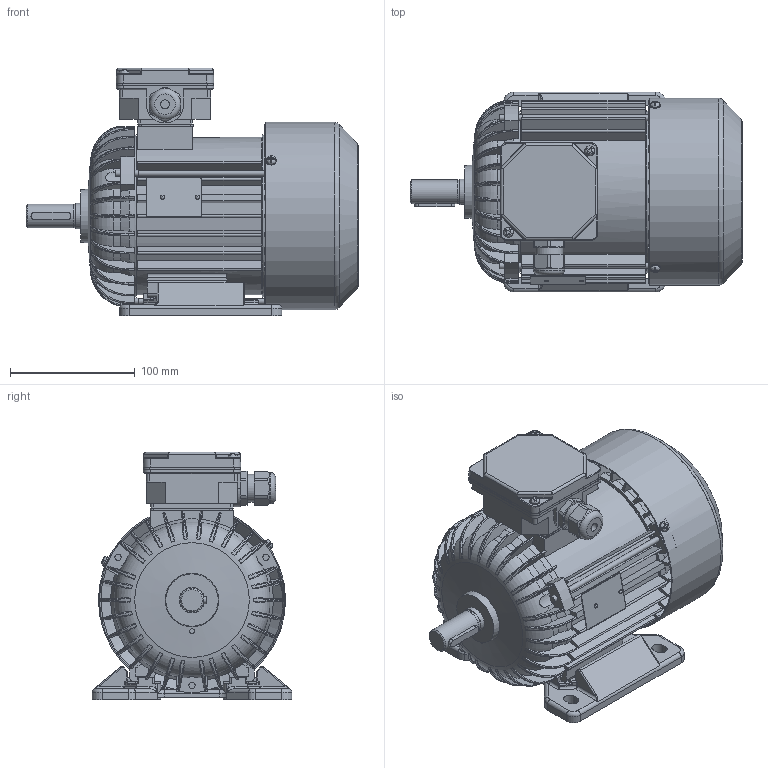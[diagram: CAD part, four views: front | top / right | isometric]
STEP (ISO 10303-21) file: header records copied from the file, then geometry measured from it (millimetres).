
FILE_DESCRIPTION( ( 'Unknown' ), '1' );
FILE_NAME( 'G:/Poczta Tk-1/STP/w.m.80/Sh80/Sh80-.A.stp', 'Unknown', ( 'K. Szlosek' ), ( 'BESEL S.A.' ), 'PSStep 17.0.49', 'Unknown', ' ' );
FILE_SCHEMA( ( 'AUTOMOTIVE_DESIGN { 1 0 10303 214 1 1 1 1 }' ) );
Length unit declared in the file: millimetre
Products named in the file (30): skrznka zaciskowa trójfazowa ; K4-2820 Uszczelka nr 2 Sh71,80; Dławnica M20x1,5; K2-0859 Podstawa skrzynki 6-cio zaciskowej; K2-0860 Pokrywka skrzynki zaciskowej; Assem1; K1-1257 Kadłub S(E,M)h80-A i B; K2-2027 Tarcza łożyskowa P S(E,M)h80-.A,C; K4-2320 Uszczelka nr 1 Sh71,80; K1-0437 Łapa Sh80-.. ; Nitokołek A 2x6; Wkręt samogwintujący M4x8; K2-2007 Tarcza łożyskowa N S(E,M)h80-; K3-7038 wał standard Sh80-A; Wpust A6x6x32; K3-4025 Przewietrznik Sg,h80; K4-4489 Osłona przewietrznika Sh80,90-A,C; Tabliczka znamionowa 32x44; Łożysko 6204; Śruba ściągająca E_M5x130; Wkręt samogwintujący M4x16
Assembly tree (45 placements, depth 3):
  Assem1
    K1-1257 Kadłub S(E,M)h80-A i B
    K2-2027 Tarcza łożyskowa P S(E,M)h80-.A,C
    K4-2320 Uszczelka nr 1 Sh71,80
    K1-0437 Łapa Sh80-.. 
    Nitokołek A 2x6  x2
    Wkręt samogwintujący M4x8  x3
    K2-2007 Tarcza łożyskowa N S(E,M)h80-
    K3-7038 wał standard Sh80-A
    Wpust A6x6x32
    K3-4025 Przewietrznik Sg,h80
    K4-4489 Osłona przewietrznika Sh80,90-A,C
    Tabliczka znamionowa 32x44
    Łożysko 6204  x2
    Łożysko 6204  x2
    Łożysko 6204  x2
    Łożysko 6204  x2
    Łożysko 6204  x2
    Łożysko 6204  x2
    Łożysko 6204  x2
    Łożysko 6204  x2
    Łożysko 6204  x2
    Łożysko 6204  x2
    Śruba ściągająca E_M5x130  x3
    Wkręt samogwintujący M4x16  x2
    skrznka zaciskowa trójfazowa 
      K4-2820 Uszczelka nr 2 Sh71,80
      Dławnica M20x1,5
      K2-0859 Podstawa skrzynki 6-cio zaciskowej
      K2-0860 Pokrywka skrzynki zaciskowej
Bounding box: 265.8 x 160 x 198.5 mm (x, y, z)
Volume: 894860.8 mm3; surface area: 536943 mm2
Topology: 44 solids, 60 shells, 2969 faces, 8159 edges, 5238 vertices
Faces by surface type: plane 1385, cylinder 960, torus 219, bspline 209, cone 160, sphere 36
Full cylindrical faces by diameter (mm): 2 x2, 2.4 x2, 3 x1, 3.7 x11, 4 x6, 4.2 x3, 4.5 x1, 4.6 x3, 4.8 x4, 5 x7, 5.5 x3, 6.5 x4, 7 x1, 8 x9, 18.376 x1, 18.38 x1, 18.6 x1, 19 x1, 19.3 x1, 19.5 x2, 19.9 x1, 20 x5, 20.3 x2, 20.4 x4, 22.3 x1, 25 x1, 25.5 x1, 25.65 x1, 26 x3, 26.05 x1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
Entity records: 163757 total; most frequent: CARTESIAN_POINT 71461, ORIENTED_EDGE 14816, DIRECTION 13878, EDGE_CURVE 7408, AXIS2_PLACEMENT_3D 5104, VERTEX_POINT 4920, LINE 3670, VECTOR 3670
